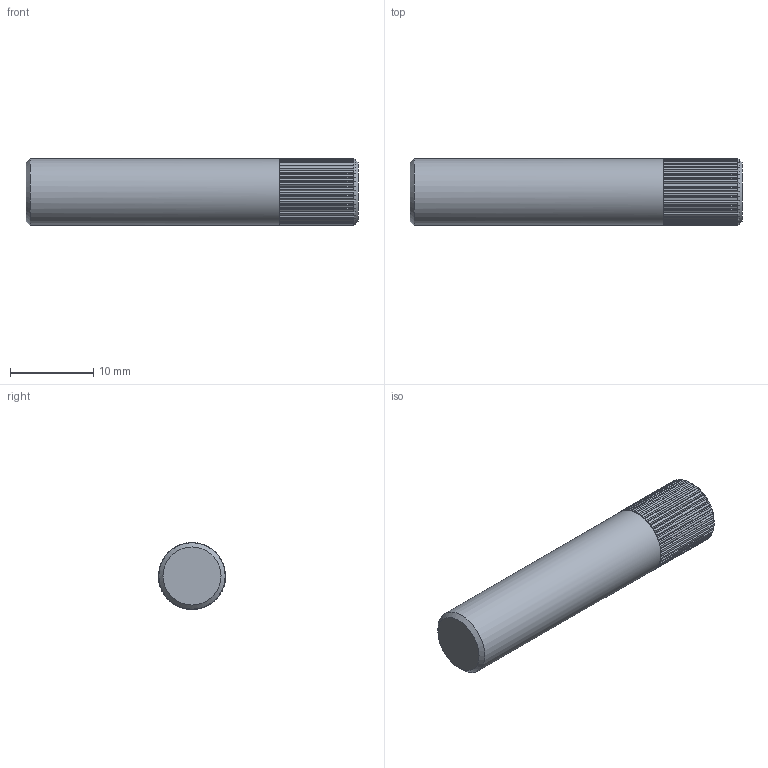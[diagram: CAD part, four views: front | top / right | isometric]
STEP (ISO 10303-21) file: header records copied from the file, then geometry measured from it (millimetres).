
FILE_DESCRIPTION (( 'STEP AP214' ), '1' );
FILE_NAME ('N30116.step', '2024-12-03T16:26:58', ( '' ), ( '' ), 'SwSTEP 2.0', 'SolidWorks 2023', '' );
FILE_SCHEMA (( 'AUTOMOTIVE_DESIGN' ));
Length unit declared in the file: millimetre
Products named in the file (1): N30116
Bounding box: 40 x 8.1 x 8.1 mm (x, y, z)
Volume: 2007.5 mm3; surface area: 1145.2 mm2
Topology: 1 solids, 1 shells, 230 faces, 593 edges, 365 vertices
Faces by surface type: plane 182, cylinder 46, cone 2
Full cylindrical faces by diameter (mm): 8 x1
Entity records: 6992 total; most frequent: CARTESIAN_POINT 1452, ORIENTED_EDGE 1176, DIRECTION 1143, EDGE_CURVE 588, AXIS2_PLACEMENT_3D 414, VERTEX_POINT 363, LINE 315, VECTOR 315
